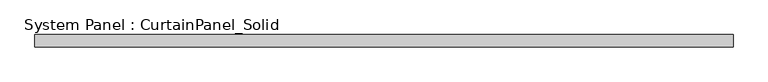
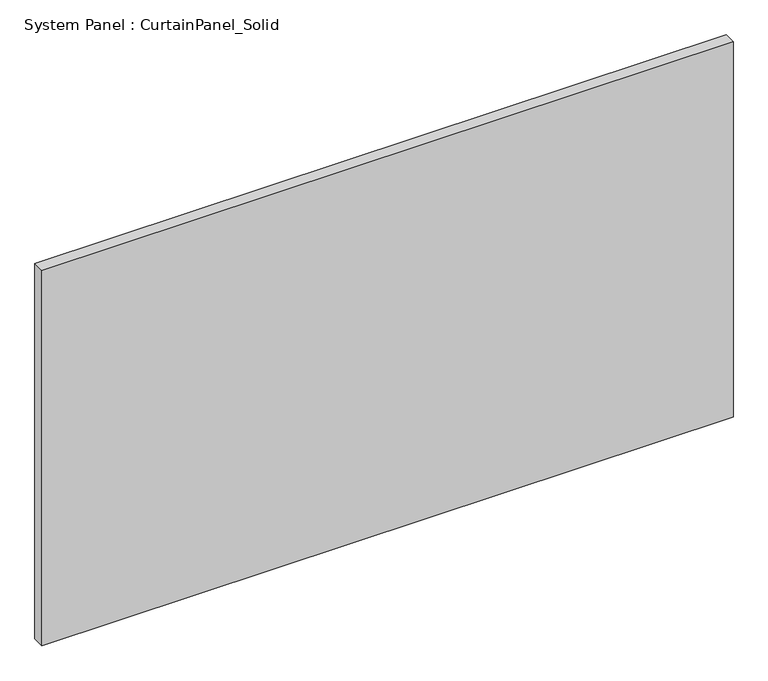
"""IFC4 building model written with IfcOpenShell, lengths in millimetres: plate geometry, System Panel : CurtainPanel_Solid."""

from ifc_helpers import new_model, si_unit, origin, origin_with_axes, place, context, project, spatial, polyline, outline, extrude, source, transform, mapped, element, save


def system_panel_curtainpanel_solid_a9b64b58(model_context):
    return source(origin(), model_context, "Body", "SweptSolid", [
        extrude(outline(polyline([(718.0555557, -12.5), (-718.0555557, -12.5), (-718.0555557, 12.5), (718.0555557, 12.5), (718.0555557, -12.5)])), origin_with_axes(), (0.0, 0.0, 1.0), 825.0),
    ])


if __name__ == "__main__":
    model = new_model("IFC4")
    model_context = context("Model", 3, world=origin())
    ifc_project = project(units=[si_unit("LENGTHUNIT", "METRE", prefix="MILLI")], contexts=[model_context])
    site = spatial("IfcSite", under=ifc_project)
    building = spatial("IfcBuilding", under=site)
    placement = place(None, origin())
    system_panel_curtainpanel_solid_shape = system_panel_curtainpanel_solid_a9b64b58(model_context)
    element("IfcPlate", 1, ObjectType="System Panel : CurtainPanel_Solid", at=placement, inside=building, context=model_context, shape_type="MappedRepresentation", body=[
        mapped(system_panel_curtainpanel_solid_shape, transform((0.0, 0.0, 0.0), x_axis=(1.0, 0.0, 0.0), y_axis=(0.0, 1.0, 0.0), z_axis=(0.0, 0.0, 1.0))),
    ])
    save(model, "model.ifc")
